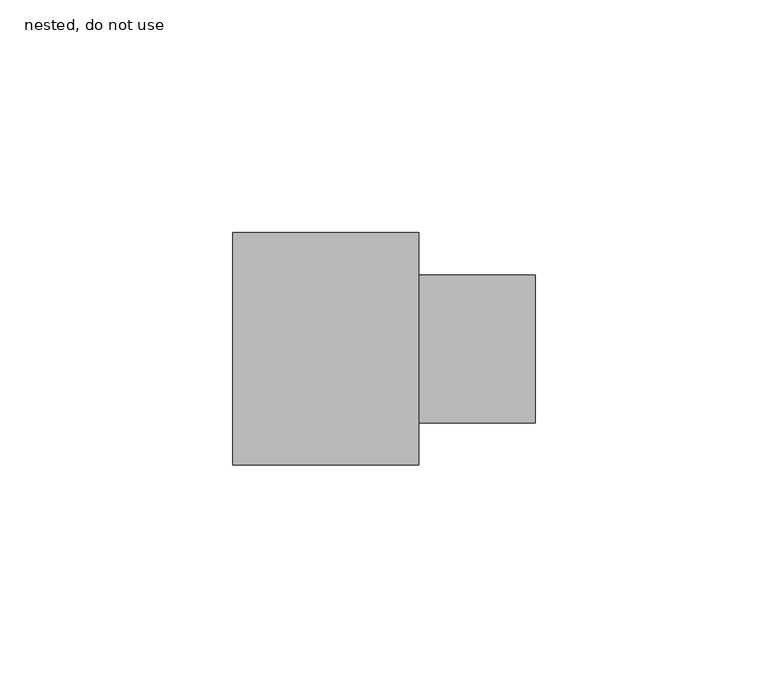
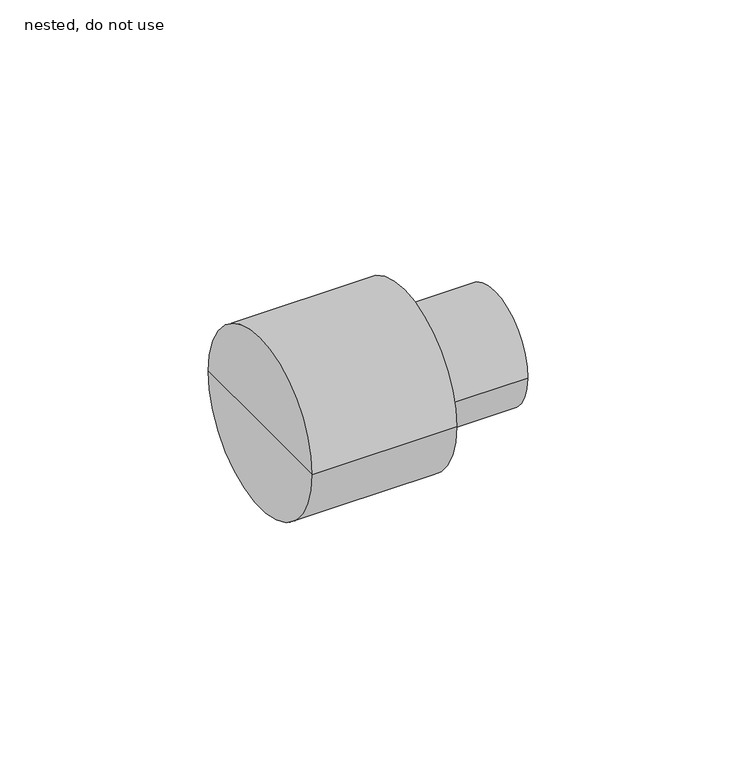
"""IFC4 building model written with IfcOpenShell, lengths in millimetres: pipe fitting geometry, ZZZ_do no use_PIF_HDPE male thread adapter -SH_Akatherm : nested, do not use."""

from ifc_helpers import new_model, si_unit, frame, origin, place, context, project, spatial, circle_curve, source, transform, mapped, element, save
from ifc_brep_helpers import plane_surface, cylinder_surface, advanced_brep


def nested_do_not_use_0fed0da3(model_context):
    return source(origin(), model_context, "Body", "AdvancedBrep", [
        advanced_brep(
        [(32.5, -15.875, 0.0), (32.5, 15.875, 0.0), (32.5, 0.0, 0.0), (7.5, -15.875, 0.0), (7.5, 15.875, 0.0), (7.5, -25.0, 0.0), (7.5, 25.0, 0.0), (-32.5, -25.0, 0.0), (-32.5, 25.0, 0.0), (-32.5, 0.0, 0.0)],
        [
            (0, 1, circle_curve(frame((32.5, 0.0, 0.0), z_axis=(1.0, 0.0, 0.0), x_axis=(0.0, 1.0, 0.0)), 15.875)),
            (1, 2),
            (2, 0),
            (1, 0, circle_curve(frame((32.5, 0.0, 0.0), z_axis=(1.0, 0.0, 0.0), x_axis=(0.0, 1.0, 0.0)), 15.875)),
            (3, 4, circle_curve(frame((7.5, 0.0, 0.0), z_axis=(1.0, 0.0, 0.0), x_axis=(0.0, 1.0, 0.0)), 15.875)),
            (4, 1),
            (0, 3),
            (4, 3, circle_curve(frame((7.5, 0.0, 0.0), z_axis=(1.0, 0.0, 0.0), x_axis=(0.0, 1.0, 0.0)), 15.875)),
            (5, 6, circle_curve(frame((7.5, 0.0, 0.0), z_axis=(1.0, 0.0, 0.0), x_axis=(0.0, 1.0, 0.0)), 25.0)),
            (6, 4),
            (3, 5),
            (6, 5, circle_curve(frame((7.5, 0.0, 0.0), z_axis=(1.0, 0.0, 0.0), x_axis=(0.0, 1.0, 0.0)), 25.0)),
            (7, 8, circle_curve(frame((-32.5, 0.0, 0.0), z_axis=(1.0, 0.0, 0.0), x_axis=(0.0, 1.0, 0.0)), 25.0)),
            (8, 6),
            (5, 7),
            (8, 7, circle_curve(frame((-32.5, 0.0, 0.0), z_axis=(1.0, 0.0, 0.0), x_axis=(0.0, 1.0, 0.0)), 25.0)),
            (9, 8),
            (7, 9),
        ],
        [
            plane_surface(frame((32.5, 0.0, 0.0), z_axis=(1.0, 0.0, 0.0), x_axis=(0.0, 1.0, 0.0))),
            cylinder_surface(frame((-112.5, 0.0, 0.0), z_axis=(-1.0, 0.0, 0.0), x_axis=(0.0, 1.0, 0.0)), 15.875),
            plane_surface(frame((7.5, 0.0, 0.0), z_axis=(1.0, 0.0, 0.0), x_axis=(0.0, 1.0, 0.0))),
            cylinder_surface(frame((-112.5, 0.0, 0.0), z_axis=(-1.0, 0.0, 0.0), x_axis=(0.0, 1.0, 0.0)), 25.0),
            plane_surface(frame((-32.5, 0.0, 0.0), z_axis=(-1.0, 0.0, 0.0), x_axis=(0.0, 1.0, 0.0))),
        ],
        [
            (0, [[1, 2, 3]]),
            (0, [[4, -3, -2]]),
            (1, [[5, 6, -1, 7]]),
            (1, [[8, -7, -4, -6]]),
            (2, [[9, 10, -5, 11]]),
            (2, [[12, -11, -8, -10]]),
            (3, [[13, 14, -9, 15]]),
            (3, [[16, -15, -12, -14]]),
            (4, [[17, -13, 18]]),
            (4, [[-18, -16, -17]]),
        ],
    ),
    ])


if __name__ == "__main__":
    model = new_model("IFC4")
    model_context = context("Model", 3, world=origin())
    ifc_project = project(units=[si_unit("LENGTHUNIT", "METRE", prefix="MILLI")], contexts=[model_context])
    site = spatial("IfcSite", under=ifc_project)
    building = spatial("IfcBuilding", under=site)
    placement = place(None, origin())
    nested_do_not_use_shape = nested_do_not_use_0fed0da3(model_context)
    element("IfcPipeFitting", 1, ObjectType="ZZZ_do no use_PIF_HDPE male thread adapter -SH_Akatherm : nested, do not use", at=placement, inside=building, context=model_context, shape_type="MappedRepresentation", body=[
        mapped(nested_do_not_use_shape, transform((0.0, 0.0, 0.0), x_axis=(1.0, 0.0, 0.0), y_axis=(0.0, 1.0, 0.0), z_axis=(0.0, 0.0, 1.0))),
    ])
    save(model, "model.ifc")
